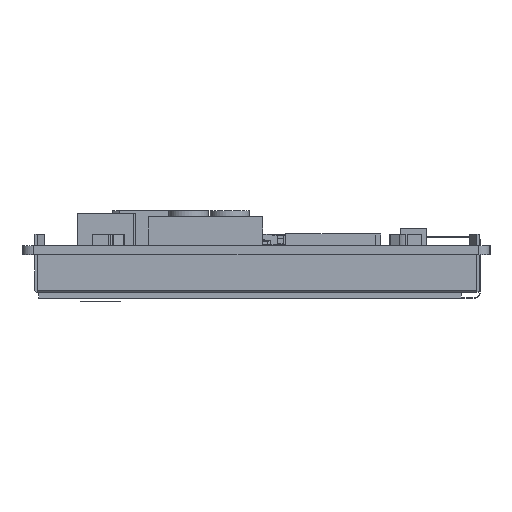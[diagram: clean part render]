
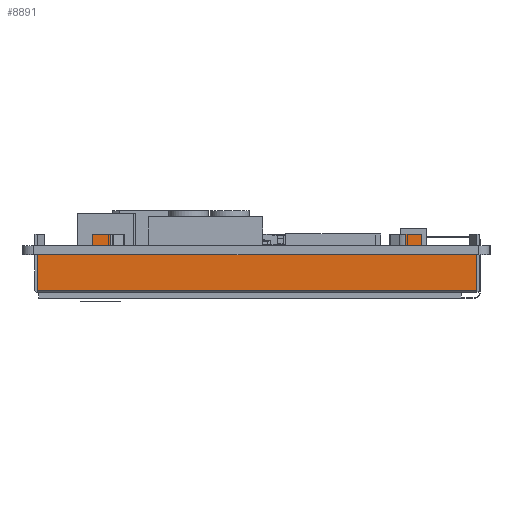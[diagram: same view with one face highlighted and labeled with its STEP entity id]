
A CAD part, left-side view. The second image highlights one B-rep face of the part: STEP entity #8891.
In plain terms, the highlighted planar face has unit normal (-1, 0, 0).
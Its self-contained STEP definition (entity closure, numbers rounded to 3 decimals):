
#4022=PLANE('',#55326);
#6431=FACE_OUTER_BOUND('',#11995,.T.);
#8891=ADVANCED_FACE('',(#6431),#4022,.F.);
#11995=EDGE_LOOP('',(#25174,#25175,#25176,#25177,#25178,#25179,#25180,#25181,
#25182,#25183,#25184,#25185,#25186,#25187,#25188,#25189));
#25174=ORIENTED_EDGE('',*,*,#37466,.F.);
#25175=ORIENTED_EDGE('',*,*,#37467,.T.);
#25176=ORIENTED_EDGE('',*,*,#37468,.T.);
#25177=ORIENTED_EDGE('',*,*,#37463,.T.);
#25178=ORIENTED_EDGE('',*,*,#37469,.T.);
#25179=ORIENTED_EDGE('',*,*,#37470,.F.);
#25180=ORIENTED_EDGE('',*,*,#37471,.T.);
#25181=ORIENTED_EDGE('',*,*,#37472,.F.);
#25182=ORIENTED_EDGE('',*,*,#37473,.F.);
#25183=ORIENTED_EDGE('',*,*,#37459,.T.);
#25184=ORIENTED_EDGE('',*,*,#37474,.T.);
#25185=ORIENTED_EDGE('',*,*,#37475,.T.);
#25186=ORIENTED_EDGE('',*,*,#37476,.F.);
#25187=ORIENTED_EDGE('',*,*,#37477,.F.);
#25188=ORIENTED_EDGE('',*,*,#37478,.F.);
#25189=ORIENTED_EDGE('',*,*,#37457,.T.);
#30590=VERTEX_POINT('',#82142);
#30592=VERTEX_POINT('',#82146);
#30593=VERTEX_POINT('',#82150);
#30595=VERTEX_POINT('',#82153);
#30597=VERTEX_POINT('',#82159);
#30599=VERTEX_POINT('',#82162);
#30601=VERTEX_POINT('',#82168);
#30602=VERTEX_POINT('',#82170);
#30603=VERTEX_POINT('',#82173);
#30604=VERTEX_POINT('',#82175);
#30605=VERTEX_POINT('',#82177);
#30606=VERTEX_POINT('',#82179);
#30607=VERTEX_POINT('',#82182);
#30608=VERTEX_POINT('',#82184);
#30609=VERTEX_POINT('',#82186);
#30610=VERTEX_POINT('',#82188);
#37457=EDGE_CURVE('',#30590,#30592,#44916,.T.);
#37459=EDGE_CURVE('',#30595,#30593,#44918,.T.);
#37463=EDGE_CURVE('',#30599,#30597,#44922,.T.);
#37466=EDGE_CURVE('',#30601,#30592,#44925,.T.);
#37467=EDGE_CURVE('',#30601,#30602,#44926,.T.);
#37468=EDGE_CURVE('',#30602,#30599,#44927,.T.);
#37469=EDGE_CURVE('',#30597,#30603,#44928,.T.);
#37470=EDGE_CURVE('',#30604,#30603,#44929,.T.);
#37471=EDGE_CURVE('',#30604,#30605,#44930,.T.);
#37472=EDGE_CURVE('',#30606,#30605,#44931,.T.);
#37473=EDGE_CURVE('',#30595,#30606,#44932,.T.);
#37474=EDGE_CURVE('',#30593,#30607,#44933,.T.);
#37475=EDGE_CURVE('',#30607,#30608,#44934,.T.);
#37476=EDGE_CURVE('',#30609,#30608,#44935,.T.);
#37477=EDGE_CURVE('',#30610,#30609,#44936,.T.);
#37478=EDGE_CURVE('',#30590,#30610,#44937,.T.);
#44916=LINE('',#82147,#51130);
#44918=LINE('',#82152,#51132);
#44922=LINE('',#82161,#51136);
#44925=LINE('',#82167,#51139);
#44926=LINE('',#82169,#51140);
#44927=LINE('',#82171,#51141);
#44928=LINE('',#82172,#51142);
#44929=LINE('',#82174,#51143);
#44930=LINE('',#82176,#51144);
#44931=LINE('',#82178,#51145);
#44932=LINE('',#82180,#51146);
#44933=LINE('',#82181,#51147);
#44934=LINE('',#82183,#51148);
#44935=LINE('',#82185,#51149);
#44936=LINE('',#82187,#51150);
#44937=LINE('',#82189,#51151);
#51130=VECTOR('',#67415,1.);
#51132=VECTOR('',#67419,1.);
#51136=VECTOR('',#67425,1.);
#51139=VECTOR('',#67430,1.);
#51140=VECTOR('',#67431,1.);
#51141=VECTOR('',#67432,1.);
#51142=VECTOR('',#67433,1.);
#51143=VECTOR('',#67434,1.);
#51144=VECTOR('',#67435,1.);
#51145=VECTOR('',#67436,1.);
#51146=VECTOR('',#67437,1.);
#51147=VECTOR('',#67438,1.);
#51148=VECTOR('',#67439,1.);
#51149=VECTOR('',#67440,1.);
#51150=VECTOR('',#67441,1.);
#51151=VECTOR('',#67442,1.);
#55326=AXIS2_PLACEMENT_3D('',#82190,#67443,#67444);
#67415=DIRECTION('',(0.,1.,0.));
#67419=DIRECTION('',(0.,1.,0.));
#67425=DIRECTION('',(0.,1.,0.));
#67430=DIRECTION('',(0.,0.,1.));
#67431=DIRECTION('',(0.,-1.,0.));
#67432=DIRECTION('',(0.,0.,1.));
#67433=DIRECTION('',(0.,0.,1.));
#67434=DIRECTION('',(0.,-1.,0.));
#67435=DIRECTION('',(0.,0.,-1.));
#67436=DIRECTION('',(0.,-1.,0.));
#67437=DIRECTION('',(0.,0.,1.));
#67438=DIRECTION('',(0.,0.,1.));
#67439=DIRECTION('',(0.,-1.,0.));
#67440=DIRECTION('',(0.,0.,-1.));
#67441=DIRECTION('',(0.,-1.,0.));
#67442=DIRECTION('',(0.,0.,1.));
#67443=DIRECTION('',(1.,0.,0.));
#67444=DIRECTION('',(0.,1.,0.));
#82142=CARTESIAN_POINT('',(59.66,45.295,-1.6));
#82146=CARTESIAN_POINT('',(59.66,54.82,-1.6));
#82147=CARTESIAN_POINT('',(59.66,-21.2,-1.6));
#82150=CARTESIAN_POINT('',(59.66,42.295,-1.6));
#82152=CARTESIAN_POINT('',(59.66,-21.2,-1.6));
#82153=CARTESIAN_POINT('',(59.66,-8.635,-1.6));
#82159=CARTESIAN_POINT('',(59.66,-11.635,-1.6));
#82161=CARTESIAN_POINT('',(59.66,-21.2,-1.6));
#82162=CARTESIAN_POINT('',(59.66,-21.2,-1.6));
#82167=CARTESIAN_POINT('',(59.66,54.82,-8.1));
#82168=CARTESIAN_POINT('',(59.66,54.82,-7.7));
#82169=CARTESIAN_POINT('',(59.66,-21.2,-7.7));
#82170=CARTESIAN_POINT('',(59.66,-21.2,-7.7));
#82171=CARTESIAN_POINT('',(59.66,-21.2,-8.1));
#82172=CARTESIAN_POINT('',(59.66,-11.635,-1.6));
#82173=CARTESIAN_POINT('',(59.66,-11.635,2.));
#82174=CARTESIAN_POINT('',(59.66,-8.924,2.));
#82175=CARTESIAN_POINT('',(59.66,-8.924,2.));
#82176=CARTESIAN_POINT('',(59.66,-8.924,2.));
#82177=CARTESIAN_POINT('',(59.66,-8.924,0.));
#82178=CARTESIAN_POINT('',(59.66,-8.635,0.));
#82179=CARTESIAN_POINT('',(59.66,-8.635,0.));
#82180=CARTESIAN_POINT('',(59.66,-8.635,-1.6));
#82181=CARTESIAN_POINT('',(59.66,42.295,-1.6));
#82182=CARTESIAN_POINT('',(59.66,42.295,0.));
#82183=CARTESIAN_POINT('',(59.66,45.295,0.));
#82184=CARTESIAN_POINT('',(59.66,42.191,0.));
#82185=CARTESIAN_POINT('',(59.66,42.191,2.));
#82186=CARTESIAN_POINT('',(59.66,42.191,2.));
#82187=CARTESIAN_POINT('',(59.66,45.295,2.));
#82188=CARTESIAN_POINT('',(59.66,45.295,2.));
#82189=CARTESIAN_POINT('',(59.66,45.295,-1.6));
#82190=CARTESIAN_POINT('',(59.66,-21.2,-8.1));
